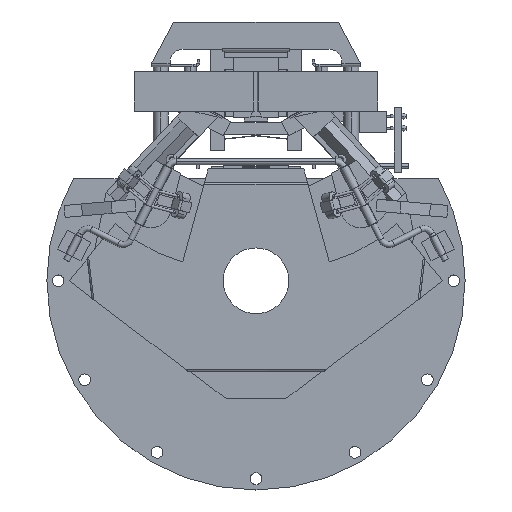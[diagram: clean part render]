
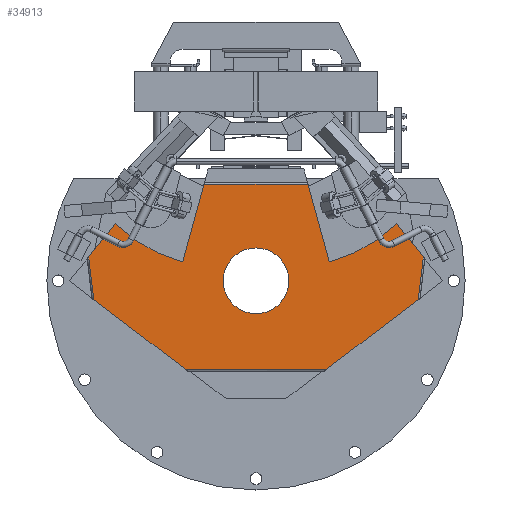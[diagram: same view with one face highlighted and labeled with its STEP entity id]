
A CAD part, top view. The second image highlights one B-rep face of the part: STEP entity #34913.
In plain terms, the highlighted planar face has unit normal (0, 0, 1).
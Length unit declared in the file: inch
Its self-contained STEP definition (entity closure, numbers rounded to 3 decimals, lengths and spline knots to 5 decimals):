
#34718 = EDGE_CURVE ( 'NONE', #34878, #34847, #90009, .T. ) ;
#34796 = VERTEX_POINT ( 'NONE', #90173 ) ;
#34798 = VERTEX_POINT ( 'NONE', #90172 ) ;
#34799 = EDGE_CURVE ( 'NONE', #34798, #34804, #90162, .T. ) ;
#34804 = VERTEX_POINT ( 'NONE', #90157 ) ;
#34847 = VERTEX_POINT ( 'NONE', #90225 ) ;
#34878 = VERTEX_POINT ( 'NONE', #90268 ) ;
#34882 = ORIENTED_EDGE ( 'NONE', *, *, #34899, .F. ) ;
#34887 = EDGE_CURVE ( 'NONE', #35064, #34934, #90318, .T. ) ;
#34889 = ORIENTED_EDGE ( 'NONE', *, *, #35044, .F. ) ;
#34891 = ORIENTED_EDGE ( 'NONE', *, *, #34887, .F. ) ;
#34894 = EDGE_CURVE ( 'NONE', #34929, #35064, #90321, .T. ) ;
#34897 = ORIENTED_EDGE ( 'NONE', *, *, #35051, .F. ) ;
#34898 = VERTEX_POINT ( 'NONE', #90314 ) ;
#34899 = EDGE_CURVE ( 'NONE', #34900, #34929, #90319, .T. ) ;
#34900 = VERTEX_POINT ( 'NONE', #90310 ) ;
#34906 = EDGE_LOOP ( 'NONE', ( #34926, #34961, #34915, #34938, #34931, #34891, #34924, #34882, #34889, #34897, #35057, #35053 ) ) ;
#34911 = VERTEX_POINT ( 'NONE', #90303 ) ;
#34913 = ADVANCED_FACE ( 'NONE', ( #90301, #90304 ), #90311, .F. ) ;
#34915 = ORIENTED_EDGE ( 'NONE', *, *, #34953, .F. ) ;
#34918 = EDGE_CURVE ( 'NONE', #34798, #34965, #90296, .T. ) ;
#34924 = ORIENTED_EDGE ( 'NONE', *, *, #34894, .F. ) ;
#34926 = ORIENTED_EDGE ( 'NONE', *, *, #34799, .F. ) ;
#34928 = EDGE_CURVE ( 'NONE', #34911, #34969, #90333, .T. ) ;
#34929 = VERTEX_POINT ( 'NONE', #90332 ) ;
#34931 = ORIENTED_EDGE ( 'NONE', *, *, #34933, .F. ) ;
#34933 = EDGE_CURVE ( 'NONE', #34934, #34911, #90335, .T. ) ;
#34934 = VERTEX_POINT ( 'NONE', #90365 ) ;
#34938 = ORIENTED_EDGE ( 'NONE', *, *, #34928, .F. ) ;
#34940 = ORIENTED_EDGE ( 'NONE', *, *, #34718, .T. ) ;
#34953 = EDGE_CURVE ( 'NONE', #34969, #34965, #90400, .T. ) ;
#34956 = ORIENTED_EDGE ( 'NONE', *, *, #34967, .T. ) ;
#34961 = ORIENTED_EDGE ( 'NONE', *, *, #34918, .T. ) ;
#34964 = EDGE_LOOP ( 'NONE', ( #34940, #34956 ) ) ;
#34965 = VERTEX_POINT ( 'NONE', #90388 ) ;
#34967 = EDGE_CURVE ( 'NONE', #34847, #34878, #90391, .T. ) ;
#34969 = VERTEX_POINT ( 'NONE', #90379 ) ;
#35044 = EDGE_CURVE ( 'NONE', #34898, #34900, #90511, .T. ) ;
#35048 = VERTEX_POINT ( 'NONE', #90505 ) ;
#35051 = EDGE_CURVE ( 'NONE', #34796, #34898, #90502, .T. ) ;
#35053 = ORIENTED_EDGE ( 'NONE', *, *, #35059, .T. ) ;
#35055 = EDGE_CURVE ( 'NONE', #35048, #34796, #90496, .T. ) ;
#35057 = ORIENTED_EDGE ( 'NONE', *, *, #35055, .F. ) ;
#35059 = EDGE_CURVE ( 'NONE', #35048, #34804, #90543, .T. ) ;
#35064 = VERTEX_POINT ( 'NONE', #90546 ) ;
#89988 = DIRECTION ( 'NONE',  ( -1., 0., 0. ) ) ;
#89989 = DIRECTION ( 'NONE',  ( 0., 0., -1. ) ) ;
#89999 = CARTESIAN_POINT ( 'NONE',  ( 0., 0., 0.045 ) ) ;
#90009 = CIRCLE ( 'NONE', #90012, 0.275 ) ;
#90012 = AXIS2_PLACEMENT_3D ( 'NONE', #89999, #89989, #89988 ) ;
#90157 = CARTESIAN_POINT ( 'NONE',  ( -1.35763, -0.15577, 0.045 ) ) ;
#90159 = DIRECTION ( 'NONE',  ( -0.795, 0.606, 0. ) ) ;
#90160 = VECTOR ( 'NONE', #90159, 39.37008 ) ;
#90161 = CARTESIAN_POINT ( 'NONE',  ( -1.562, 0., 0.045 ) ) ;
#90162 = LINE ( 'NONE', #90161, #90160 ) ;
#90172 = CARTESIAN_POINT ( 'NONE',  ( -0.58456, -0.745, 0.045 ) ) ;
#90173 = CARTESIAN_POINT ( 'NONE',  ( -1.17534, 0.47748, 0.045 ) ) ;
#90225 = CARTESIAN_POINT ( 'NONE',  ( -0.275, 0., 0.045 ) ) ;
#90244 = DIRECTION ( 'NONE',  ( -0.119, -0.993, 0. ) ) ;
#90245 = CARTESIAN_POINT ( 'NONE',  ( 1.51793, 1.18013, 0.045 ) ) ;
#90268 = CARTESIAN_POINT ( 'NONE',  ( 0.275, 0., 0.045 ) ) ;
#90276 = AXIS2_PLACEMENT_3D ( 'NONE', #90331, #90330, #90329 ) ;
#90279 = CARTESIAN_POINT ( 'NONE',  ( 0.281, 1.396, 0.045 ) ) ;
#90294 = VECTOR ( 'NONE', #90328, 39.37008 ) ;
#90295 = CARTESIAN_POINT ( 'NONE',  ( -0.281, -0.745, 0.045 ) ) ;
#90296 = LINE ( 'NONE', #90295, #90294 ) ;
#90301 = FACE_BOUND ( 'NONE', #34964, .T. ) ;
#90303 = CARTESIAN_POINT ( 'NONE',  ( 1.40028, 0.1997, 0.045 ) ) ;
#90304 = FACE_OUTER_BOUND ( 'NONE', #34906, .T. ) ;
#90307 = DIRECTION ( 'NONE',  ( 1., 0., 0. ) ) ;
#90308 = VECTOR ( 'NONE', #90307, 39.37008 ) ;
#90309 = CARTESIAN_POINT ( 'NONE',  ( -0.281, 0.808, 0.045 ) ) ;
#90310 = CARTESIAN_POINT ( 'NONE',  ( -0.43526, 0.808, 0.045 ) ) ;
#90311 = PLANE ( 'NONE',  #90276 ) ;
#90312 = DIRECTION ( 'NONE',  ( 0.264, -0.965, 0. ) ) ;
#90313 = VECTOR ( 'NONE', #90312, 39.37008 ) ;
#90314 = CARTESIAN_POINT ( 'NONE',  ( -0.613, 0.15774, 0.045 ) ) ;
#90315 = DIRECTION ( 'NONE',  ( 1., 0., 0. ) ) ;
#90316 = DIRECTION ( 'NONE',  ( 0., 0., 1. ) ) ;
#90317 = AXIS2_PLACEMENT_3D ( 'NONE', #90279, #90316, #90315 ) ;
#90318 = CIRCLE ( 'NONE', #90317, 1.282 ) ;
#90319 = LINE ( 'NONE', #90309, #90308 ) ;
#90320 = CARTESIAN_POINT ( 'NONE',  ( 0.4, 0.937, 0.045 ) ) ;
#90321 = LINE ( 'NONE', #90320, #90313 ) ;
#90326 = VECTOR ( 'NONE', #90244, 39.37008 ) ;
#90328 = DIRECTION ( 'NONE',  ( 1., 0., 0. ) ) ;
#90329 = DIRECTION ( 'NONE',  ( -1., 0., 0. ) ) ;
#90330 = DIRECTION ( 'NONE',  ( 0., 0., -1. ) ) ;
#90331 = CARTESIAN_POINT ( 'NONE',  ( -0.281, 1.396, 0.045 ) ) ;
#90332 = CARTESIAN_POINT ( 'NONE',  ( 0.43526, 0.808, 0.045 ) ) ;
#90333 = LINE ( 'NONE', #90245, #90326 ) ;
#90334 = CARTESIAN_POINT ( 'NONE',  ( 1.17534, 0.47748, 0.045 ) ) ;
#90335 = LINE ( 'NONE', #90334, #90362 ) ;
#90361 = DIRECTION ( 'NONE',  ( 0.629, -0.777, 0. ) ) ;
#90362 = VECTOR ( 'NONE', #90361, 39.37008 ) ;
#90365 = CARTESIAN_POINT ( 'NONE',  ( 1.17534, 0.47748, 0.045 ) ) ;
#90377 = DIRECTION ( 'NONE',  ( -1., 0., 0. ) ) ;
#90379 = CARTESIAN_POINT ( 'NONE',  ( 1.35763, -0.15577, 0.045 ) ) ;
#90380 = DIRECTION ( 'NONE',  ( 0., 0., -1. ) ) ;
#90381 = CARTESIAN_POINT ( 'NONE',  ( 0., 0., 0.045 ) ) ;
#90382 = AXIS2_PLACEMENT_3D ( 'NONE', #90381, #90380, #90377 ) ;
#90388 = CARTESIAN_POINT ( 'NONE',  ( 0.58456, -0.745, 0.045 ) ) ;
#90389 = VECTOR ( 'NONE', #90398, 39.37008 ) ;
#90391 = CIRCLE ( 'NONE', #90382, 0.275 ) ;
#90398 = DIRECTION ( 'NONE',  ( -0.795, -0.606, 0. ) ) ;
#90399 = CARTESIAN_POINT ( 'NONE',  ( 1.562, 0., 0.045 ) ) ;
#90400 = LINE ( 'NONE', #90399, #90389 ) ;
#90474 = DIRECTION ( 'NONE',  ( 0., 0., 1. ) ) ;
#90495 = CARTESIAN_POINT ( 'NONE',  ( -0.281, 1.396, 0.045 ) ) ;
#90496 = LINE ( 'NONE', #90549, #90548 ) ;
#90497 = DIRECTION ( 'NONE',  ( 0.264, 0.965, 0. ) ) ;
#90498 = VECTOR ( 'NONE', #90497, 39.37008 ) ;
#90499 = CARTESIAN_POINT ( 'NONE',  ( -0.4, 0.937, 0.045 ) ) ;
#90500 = AXIS2_PLACEMENT_3D ( 'NONE', #90495, #90474, #90553 ) ;
#90502 = CIRCLE ( 'NONE', #90500, 1.282 ) ;
#90505 = CARTESIAN_POINT ( 'NONE',  ( -1.40028, 0.1997, 0.045 ) ) ;
#90511 = LINE ( 'NONE', #90499, #90498 ) ;
#90540 = DIRECTION ( 'NONE',  ( 0.119, -0.993, 0. ) ) ;
#90541 = VECTOR ( 'NONE', #90540, 39.37008 ) ;
#90542 = CARTESIAN_POINT ( 'NONE',  ( -1.52591, 1.24661, 0.045 ) ) ;
#90543 = LINE ( 'NONE', #90542, #90541 ) ;
#90546 = CARTESIAN_POINT ( 'NONE',  ( 0.613, 0.15774, 0.045 ) ) ;
#90547 = DIRECTION ( 'NONE',  ( 0.629, 0.777, 0. ) ) ;
#90548 = VECTOR ( 'NONE', #90547, 39.37008 ) ;
#90549 = CARTESIAN_POINT ( 'NONE',  ( -1.17534, 0.47748, 0.045 ) ) ;
#90553 = DIRECTION ( 'NONE',  ( -1., 0., 0. ) ) ;
